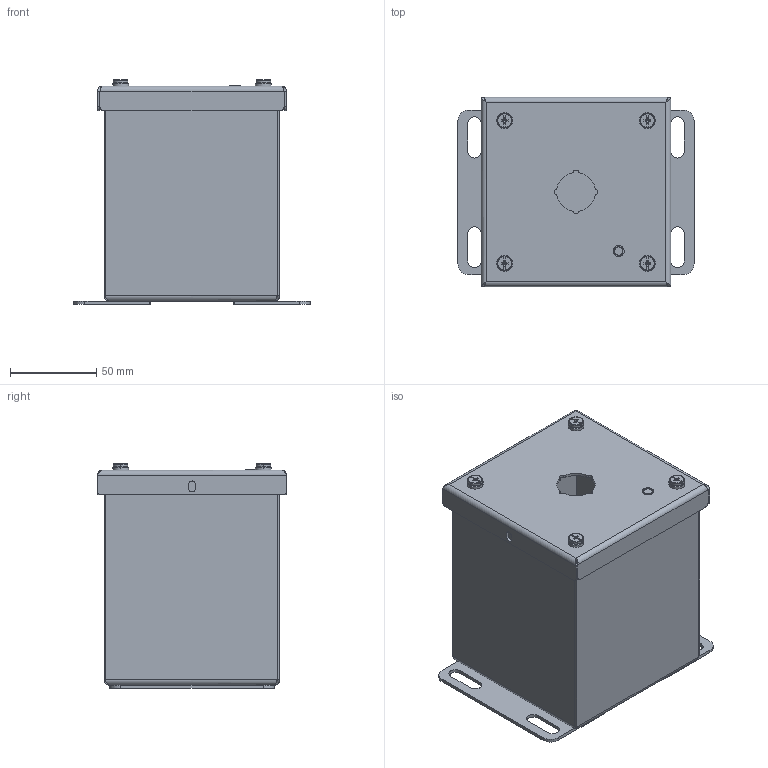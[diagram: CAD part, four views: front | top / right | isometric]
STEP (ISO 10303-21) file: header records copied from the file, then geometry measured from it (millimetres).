
FILE_DESCRIPTION((''),'2;1');
FILE_NAME('MODEL-335_ASM','2021-06-02T13:46:31',('chads'),('SAGINAW CONTROL & ENGINEERING'),'CREO PARAMETRIC BY PTC INC, 2017260','CREO PARAMETRIC BY PTC INC, 2017260','');
FILE_SCHEMA(('AUTOMOTIVE_DESIGN { 1 0 10303 214 1 1 1 1 }'));
Length unit declared in the file: inch
Products named in the file (10): MODEL-335-BDY; MODEL-335-DR; 100063; 102146; 101966; 100009; 100983; 102534; MODEL-335-GSKT; MODEL-335_ASM
Assembly tree (16 placements, depth 2):
  MODEL-335_ASM
    MODEL-335-BDY
    MODEL-335-DR
    100063
    102146  x2
    101966
    100009
    100983  x4
    102534  x4
    MODEL-335-GSKT
Bounding box: 136.53 x 109.54 x 130.14 mm (x, y, z)
Volume: 141282.5 mm3; surface area: 186290.7 mm2
Topology: 19 solids, 19 shells, 726 faces, 1791 edges, 1050 vertices
Faces by surface type: plane 278, cylinder 240, bspline 100, torus 80, cone 28
Entity records: 21484 total; most frequent: CARTESIAN_POINT 5797, DIRECTION 2083, ORIENTED_EDGE 2030, EDGE_CURVE 1015, PRESENTATION_STYLE_ASSIGNMENT 927, STYLED_ITEM 927, CURVE_STYLE 851, AXIS2_PLACEMENT_3D 745
